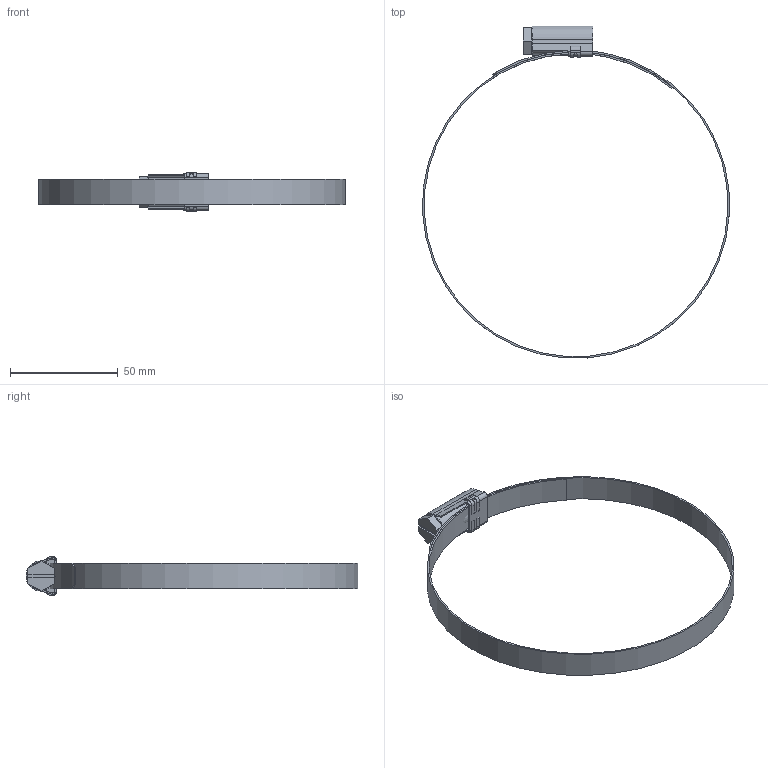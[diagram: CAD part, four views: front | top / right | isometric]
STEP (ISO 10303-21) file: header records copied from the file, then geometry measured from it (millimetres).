
FILE_DESCRIPTION (( 'STEP AP203' ), '1' );
FILE_NAME ('3D-R548_120-140_171786400.STEP', '2024-09-02T14:33:47', ( '' ), ( '' ), 'SwSTEP 2.0', 'SolidWorks 2024', '' );
FILE_SCHEMA (( 'CONFIG_CONTROL_DESIGN' ));
Length unit declared in the file: millimetre
Products named in the file (1): 3D-R548_120-140_171786400
Bounding box: 142.41 x 154.09 x 18 mm (x, y, z)
Volume: 10265.2 mm3; surface area: 18024.1 mm2
Topology: 4 solids, 4 shells, 94 faces, 262 edges, 172 vertices
Faces by surface type: plane 59, cylinder 28, bspline 3, cone 2, torus 2
Entity records: 3895 total; most frequent: CARTESIAN_POINT 1450, ORIENTED_EDGE 524, DIRECTION 456, EDGE_CURVE 262, VERTEX_POINT 172, LINE 164, VECTOR 164, AXIS2_PLACEMENT_3D 146
